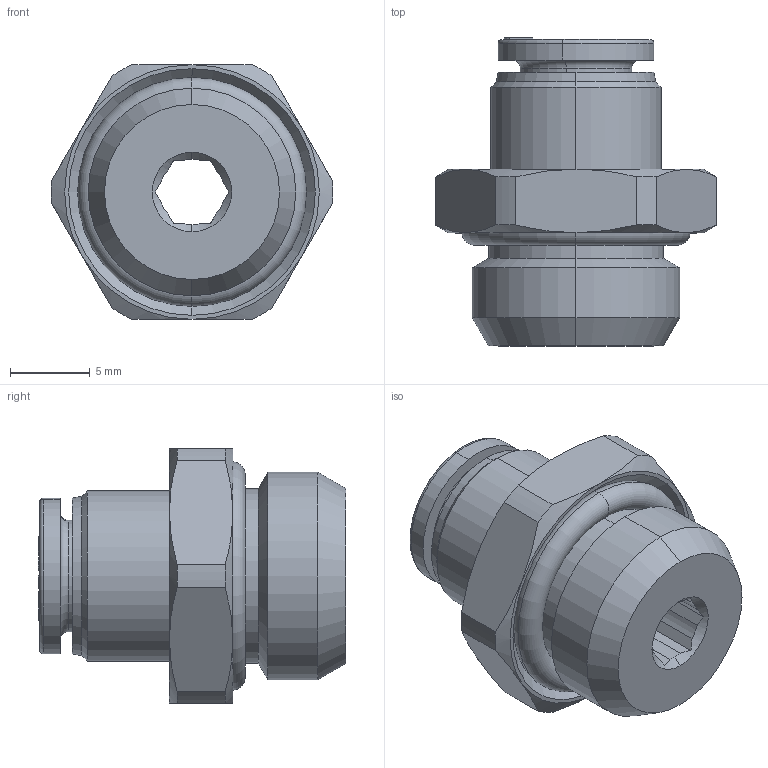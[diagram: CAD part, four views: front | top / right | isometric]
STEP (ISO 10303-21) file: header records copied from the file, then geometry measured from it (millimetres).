
FILE_DESCRIPTION (( 'STEP AP214' ), '1' );
FILE_NAME ('5602000012.STEP', '2016-05-24T06:52:52', ( '' ), ( '' ), 'SwSTEP 2.0', 'SolidWorks 2016', '' );
FILE_SCHEMA (( 'AUTOMOTIVE_DESIGN' ));
Length unit declared in the file: millimetre
Products named in the file (1): 5602000012
Bounding box: 17.69 x 19.35 x 16 mm (x, y, z)
Surface area: 1733.5 mm2 (no closed solid volume)
Topology: 0 solids, 6 shells, 242 faces, 765 edges, 511 vertices
Faces by surface type: plane 131, bspline 48, cylinder 27, cone 26, torus 10
Entity records: 12578 total; most frequent: CARTESIAN_POINT 3687, ORIENTED_EDGE 1322, DIRECTION 1066, EDGE_CURVE 765, VERTEX_POINT 511, VECTOR 454, LINE 454, AXIS2_PLACEMENT_3D 306
